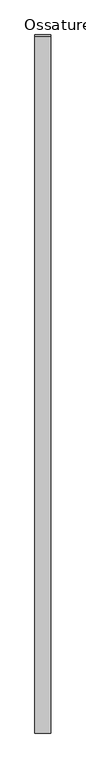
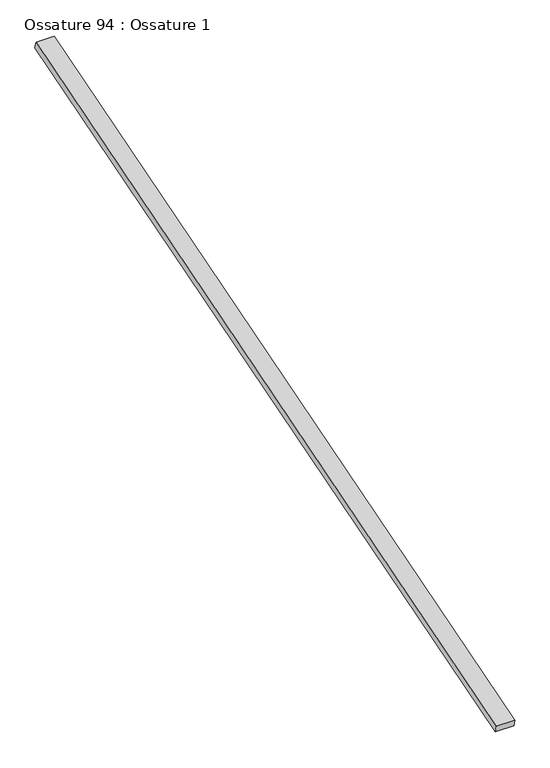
"""IFC4 building model written with IfcOpenShell, lengths in millimetres: beam geometry, Ossature 94 : Ossature 1."""

from ifc_helpers import new_model, si_unit, frame, origin, place, context, project, spatial, polyline, outline, extrude, source, transform, mapped, element, save


def ossature_94_ossature_1_2447526d(model_context):
    return source(origin(), model_context, "Body", "SweptSolid", [
        extrude(outline(polyline([(0.0, 0.0), (0.0, -4543.0299679), (-100.0, -4543.0299679), (-100.0, 0.0), (0.0, 0.0)])), frame((22668.8466393, -833.3913565, 8153.6336115), z_axis=(0.0, -0.28734788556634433, 0.9578262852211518), x_axis=(-1.0, 0.0, 0.0)), (0.0, 0.0, 1.0), 40.0),
    ])


if __name__ == "__main__":
    model = new_model("IFC4")
    model_context = context("Model", 3, world=origin())
    ifc_project = project(units=[si_unit("LENGTHUNIT", "METRE", prefix="MILLI")], contexts=[model_context])
    site = spatial("IfcSite", under=ifc_project)
    building = spatial("IfcBuilding", under=site)
    placement = place(None, origin())
    ossature_94_ossature_1_shape = ossature_94_ossature_1_2447526d(model_context)
    element("IfcBeam", 1, ObjectType="Ossature 94 : Ossature 1", at=placement, inside=building, context=model_context, shape_type="MappedRepresentation", body=[
        mapped(ossature_94_ossature_1_shape, transform((0.0, 0.0, 0.0), x_axis=(1.0, 0.0, 0.0), y_axis=(0.0, 1.0, 0.0), z_axis=(0.0, 0.0, 1.0))),
    ])
    save(model, "model.ifc")
